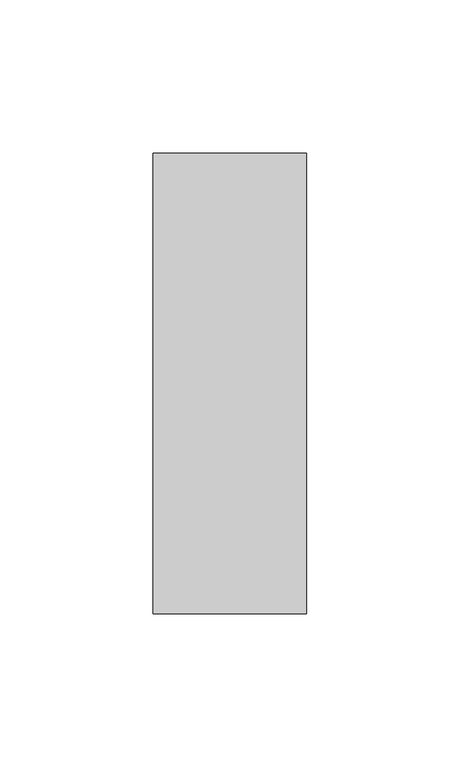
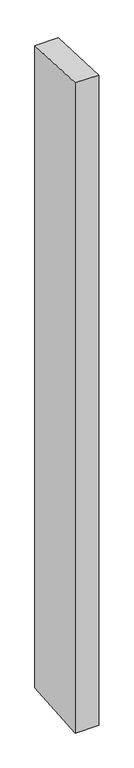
"""IFC4 building model written with IfcOpenShell, lengths in millimetres: member geometry, Прямоугольный импост : 50 x 150 мм."""

from ifc_helpers import new_model, si_unit, origin, place, context, project, spatial, faceted_brep, source, transform, mapped, element, save


def member_3fda75a4(model_context):
    return source(origin(), model_context, "Body", "Brep", [
        faceted_brep([(-50.0, 75.0, -3.0198553), (0.0, 75.0, -3.2566829), (0.0, 75.0, -1457.5610206), (-50.0, 75.0, -1458.0010896), (-50.0, -75.0, 3.4935105), (-50.0, -75.0, -1470.1041155), (0.0, -75.0, 3.2566829), (0.0, -75.0, -1469.6640464)], [[[0, 1, 2, 3]], [[4, 0, 3, 5]], [[6, 4, 5, 7]], [[1, 6, 7, 2]], [[1, 0, 4, 6]], [[2, 7, 5, 3]]]),
    ])


if __name__ == "__main__":
    model = new_model("IFC4")
    model_context = context("Model", 3, world=origin())
    ifc_project = project(units=[si_unit("LENGTHUNIT", "METRE", prefix="MILLI")], contexts=[model_context])
    site = spatial("IfcSite", under=ifc_project)
    building = spatial("IfcBuilding", under=site)
    placement = place(None, origin())
    member_shape = member_3fda75a4(model_context)
    element("IfcMember", 1, ObjectType="Прямоугольный импост : 50 x 150 мм", at=placement, inside=building, context=model_context, shape_type="MappedRepresentation", body=[
        mapped(member_shape, transform((0.0, 0.0, 0.0), x_axis=(1.0, 0.0, 0.0), y_axis=(0.0, 1.0, 0.0), z_axis=(0.0, 0.0, 1.0))),
    ])
    save(model, "model.ifc")
